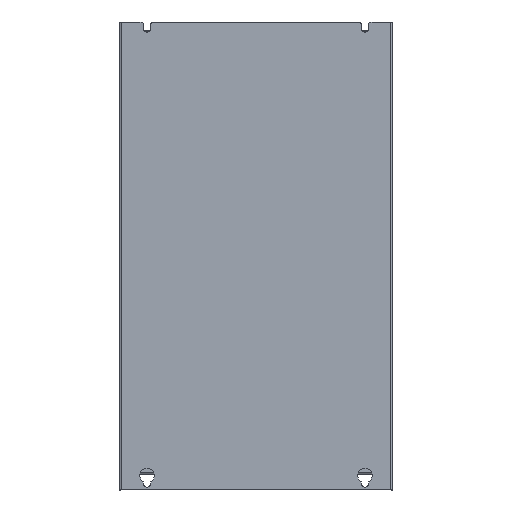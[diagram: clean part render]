
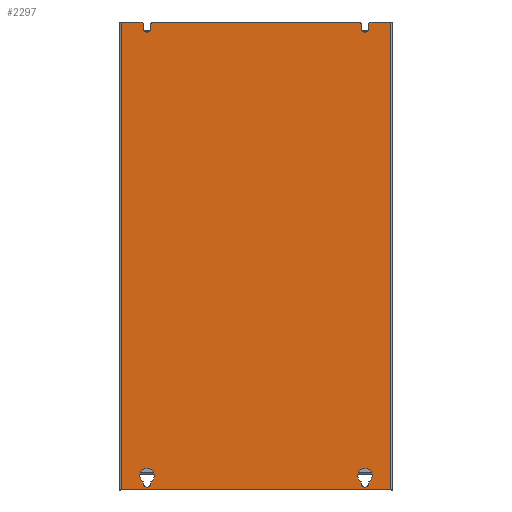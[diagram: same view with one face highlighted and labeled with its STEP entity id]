
A CAD part, top view. The second image highlights one B-rep face of the part: STEP entity #2297.
In plain terms, the highlighted planar face has unit normal (0, 0, 1).
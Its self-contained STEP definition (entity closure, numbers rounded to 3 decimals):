
#588=DIRECTION('',(0.,1.,0.));
#589=VECTOR('',#588,580.);
#590=CARTESIAN_POINT('',(-166.9,-290.,0.));
#591=LINE('',#590,#589);
#606=CARTESIAN_POINT('',(-135.,-282.,0.));
#607=DIRECTION('',(0.,0.,-1.));
#608=DIRECTION('',(1.,0.,0.));
#609=AXIS2_PLACEMENT_3D('',#606,#607,#608);
#611=DIRECTION('',(0.,1.,0.));
#612=VECTOR('',#611,2.206);
#613=CARTESIAN_POINT('',(-130.5,-282.,0.));
#614=LINE('',#613,#612);
#615=CARTESIAN_POINT('',(-135.,-272.,0.));
#616=DIRECTION('',(0.,0.,-1.));
#617=DIRECTION('',(-0.5,-0.866,0.));
#618=AXIS2_PLACEMENT_3D('',#615,#616,#617);
#620=DIRECTION('',(0.,-1.,0.));
#621=VECTOR('',#620,2.206);
#622=CARTESIAN_POINT('',(-139.5,-279.794,0.));
#623=LINE('',#622,#621);
#624=DIRECTION('',(0.,1.,0.));
#625=VECTOR('',#624,2.206);
#626=CARTESIAN_POINT('',(139.5,-282.,0.));
#627=LINE('',#626,#625);
#628=CARTESIAN_POINT('',(135.,-272.,0.));
#629=DIRECTION('',(0.,0.,-1.));
#630=DIRECTION('',(-0.5,-0.866,0.));
#631=AXIS2_PLACEMENT_3D('',#628,#629,#630);
#633=DIRECTION('',(0.,-1.,0.));
#634=VECTOR('',#633,2.206);
#635=CARTESIAN_POINT('',(130.5,-279.794,0.));
#636=LINE('',#635,#634);
#637=CARTESIAN_POINT('',(135.,-282.,0.));
#638=DIRECTION('',(0.,0.,-1.));
#639=DIRECTION('',(1.,0.,0.));
#640=AXIS2_PLACEMENT_3D('',#637,#638,#639);
#642=CARTESIAN_POINT('',(-142.5,287.,0.));
#643=DIRECTION('',(0.,0.,1.));
#644=DIRECTION('',(1.,0.,0.));
#645=AXIS2_PLACEMENT_3D('',#642,#643,#644);
#647=DIRECTION('',(0.,-1.,0.));
#648=VECTOR('',#647,5.);
#649=CARTESIAN_POINT('',(-139.5,287.,0.));
#650=LINE('',#649,#648);
#651=CARTESIAN_POINT('',(-135.,282.,0.));
#652=DIRECTION('',(0.,0.,-1.));
#653=DIRECTION('',(1.,0.,0.));
#654=AXIS2_PLACEMENT_3D('',#651,#652,#653);
#656=DIRECTION('',(0.,-1.,0.));
#657=VECTOR('',#656,5.);
#658=CARTESIAN_POINT('',(-130.5,287.,0.));
#659=LINE('',#658,#657);
#660=CARTESIAN_POINT('',(-127.5,287.,0.));
#661=DIRECTION('',(0.,0.,1.));
#662=DIRECTION('',(0.,1.,0.));
#663=AXIS2_PLACEMENT_3D('',#660,#661,#662);
#665=CARTESIAN_POINT('',(127.5,287.,0.));
#666=DIRECTION('',(0.,0.,1.));
#667=DIRECTION('',(1.,0.,0.));
#668=AXIS2_PLACEMENT_3D('',#665,#666,#667);
#670=DIRECTION('',(0.,-1.,0.));
#671=VECTOR('',#670,5.);
#672=CARTESIAN_POINT('',(130.5,287.,0.));
#673=LINE('',#672,#671);
#674=CARTESIAN_POINT('',(135.,282.,0.));
#675=DIRECTION('',(0.,0.,-1.));
#676=DIRECTION('',(1.,0.,0.));
#677=AXIS2_PLACEMENT_3D('',#674,#675,#676);
#679=DIRECTION('',(0.,-1.,0.));
#680=VECTOR('',#679,5.);
#681=CARTESIAN_POINT('',(139.5,287.,0.));
#682=LINE('',#681,#680);
#683=CARTESIAN_POINT('',(142.5,287.,0.));
#684=DIRECTION('',(0.,0.,1.));
#685=DIRECTION('',(0.,1.,0.));
#686=AXIS2_PLACEMENT_3D('',#683,#684,#685);
#806=DIRECTION('',(1.,0.,0.));
#807=VECTOR('',#806,24.4);
#808=CARTESIAN_POINT('',(-166.9,290.,0.));
#809=LINE('',#808,#807);
#868=DIRECTION('',(1.,0.,0.));
#869=VECTOR('',#868,255.);
#870=CARTESIAN_POINT('',(-127.5,290.,0.));
#871=LINE('',#870,#869);
#896=DIRECTION('',(1.,0.,0.));
#897=VECTOR('',#896,24.4);
#898=CARTESIAN_POINT('',(142.5,290.,0.));
#899=LINE('',#898,#897);
#913=DIRECTION('',(0.,1.,0.));
#914=VECTOR('',#913,580.);
#915=CARTESIAN_POINT('',(166.9,-290.,0.));
#916=LINE('',#915,#914);
#1012=DIRECTION('',(1.,0.,0.));
#1013=VECTOR('',#1012,333.8);
#1014=CARTESIAN_POINT('',(-166.9,-290.,0.));
#1015=LINE('',#1014,#1013);
#1134=CARTESIAN_POINT('',(-166.9,-290.,0.));
#1135=CARTESIAN_POINT('',(166.9,-290.,0.));
#1136=VERTEX_POINT('',#1134);
#1137=VERTEX_POINT('',#1135);
#1150=CARTESIAN_POINT('',(-166.9,290.,0.));
#1152=VERTEX_POINT('',#1150);
#1156=CARTESIAN_POINT('',(166.9,290.,0.));
#1157=VERTEX_POINT('',#1156);
#1166=CARTESIAN_POINT('',(-130.5,282.,0.));
#1167=CARTESIAN_POINT('',(-139.5,282.,0.));
#1168=VERTEX_POINT('',#1166);
#1169=VERTEX_POINT('',#1167);
#1170=CARTESIAN_POINT('',(-130.5,-282.,0.));
#1171=CARTESIAN_POINT('',(-139.5,-282.,0.));
#1172=VERTEX_POINT('',#1170);
#1173=VERTEX_POINT('',#1171);
#1174=CARTESIAN_POINT('',(-130.5,-279.794,0.));
#1175=VERTEX_POINT('',#1174);
#1176=CARTESIAN_POINT('',(-139.5,-279.794,0.));
#1177=VERTEX_POINT('',#1176);
#1178=CARTESIAN_POINT('',(139.5,-282.,0.));
#1179=CARTESIAN_POINT('',(139.5,-279.794,0.));
#1180=VERTEX_POINT('',#1178);
#1181=VERTEX_POINT('',#1179);
#1182=CARTESIAN_POINT('',(130.5,-279.794,0.));
#1183=VERTEX_POINT('',#1182);
#1184=CARTESIAN_POINT('',(130.5,-282.,0.));
#1185=VERTEX_POINT('',#1184);
#1186=CARTESIAN_POINT('',(139.5,282.,0.));
#1187=CARTESIAN_POINT('',(130.5,282.,0.));
#1188=VERTEX_POINT('',#1186);
#1189=VERTEX_POINT('',#1187);
#1214=CARTESIAN_POINT('',(-139.5,287.,0.));
#1215=CARTESIAN_POINT('',(-142.5,290.,0.));
#1216=VERTEX_POINT('',#1214);
#1217=VERTEX_POINT('',#1215);
#1222=CARTESIAN_POINT('',(-127.5,290.,0.));
#1223=CARTESIAN_POINT('',(-130.5,287.,0.));
#1224=VERTEX_POINT('',#1222);
#1225=VERTEX_POINT('',#1223);
#1230=CARTESIAN_POINT('',(142.5,290.,0.));
#1231=CARTESIAN_POINT('',(139.5,287.,0.));
#1232=VERTEX_POINT('',#1230);
#1233=VERTEX_POINT('',#1231);
#1238=CARTESIAN_POINT('',(130.5,287.,0.));
#1239=CARTESIAN_POINT('',(127.5,290.,0.));
#1240=VERTEX_POINT('',#1238);
#1241=VERTEX_POINT('',#1239);
#2239=CARTESIAN_POINT('',(-169.,-290.,0.));
#2240=DIRECTION('',(0.,0.,1.));
#2241=DIRECTION('',(1.,0.,0.));
#2242=AXIS2_PLACEMENT_3D('',#2239,#2240,#2241);
#2243=PLANE('',#2242);
#2245=ORIENTED_EDGE('',*,*,#2244,.F.);
#2247=ORIENTED_EDGE('',*,*,#2246,.T.);
#2249=ORIENTED_EDGE('',*,*,#2248,.F.);
#2251=ORIENTED_EDGE('',*,*,#2250,.F.);
#2253=ORIENTED_EDGE('',*,*,#2252,.F.);
#2255=ORIENTED_EDGE('',*,*,#2254,.T.);
#2257=ORIENTED_EDGE('',*,*,#2256,.F.);
#2259=ORIENTED_EDGE('',*,*,#2258,.T.);
#2261=ORIENTED_EDGE('',*,*,#2260,.F.);
#2263=ORIENTED_EDGE('',*,*,#2262,.F.);
#2265=ORIENTED_EDGE('',*,*,#2264,.F.);
#2267=ORIENTED_EDGE('',*,*,#2266,.T.);
#2269=ORIENTED_EDGE('',*,*,#2268,.F.);
#2271=ORIENTED_EDGE('',*,*,#2270,.F.);
#2272=ORIENTED_EDGE('',*,*,#2230,.T.);
#2274=ORIENTED_EDGE('',*,*,#2273,.T.);
#2275=EDGE_LOOP('',(#2245,#2247,#2249,#2251,#2253,#2255,#2257,#2259,#2261,#2263,
#2265,#2267,#2269,#2271,#2272,#2274));
#2276=FACE_OUTER_BOUND('',#2275,.F.);
#2278=ORIENTED_EDGE('',*,*,#2277,.T.);
#2280=ORIENTED_EDGE('',*,*,#2279,.F.);
#2282=ORIENTED_EDGE('',*,*,#2281,.T.);
#2284=ORIENTED_EDGE('',*,*,#2283,.F.);
#2285=EDGE_LOOP('',(#2278,#2280,#2282,#2284));
#2286=FACE_BOUND('',#2285,.F.);
#2288=ORIENTED_EDGE('',*,*,#2287,.F.);
#2290=ORIENTED_EDGE('',*,*,#2289,.T.);
#2292=ORIENTED_EDGE('',*,*,#2291,.F.);
#2294=ORIENTED_EDGE('',*,*,#2293,.T.);
#2295=EDGE_LOOP('',(#2288,#2290,#2292,#2294));
#2296=FACE_BOUND('',#2295,.F.);
#610=CIRCLE('',#609,4.5);
#619=CIRCLE('',#618,9.);
#632=CIRCLE('',#631,9.);
#641=CIRCLE('',#640,4.5);
#646=CIRCLE('',#645,3.);
#655=CIRCLE('',#654,4.5);
#664=CIRCLE('',#663,3.);
#669=CIRCLE('',#668,3.);
#678=CIRCLE('',#677,4.5);
#687=CIRCLE('',#686,3.);
#2230=EDGE_CURVE('',#1136,#1152,#591,.T.);
#2244=EDGE_CURVE('',#1216,#1217,#646,.T.);
#2246=EDGE_CURVE('',#1216,#1169,#650,.T.);
#2248=EDGE_CURVE('',#1168,#1169,#655,.T.);
#2250=EDGE_CURVE('',#1225,#1168,#659,.T.);
#2252=EDGE_CURVE('',#1224,#1225,#664,.T.);
#2254=EDGE_CURVE('',#1224,#1241,#871,.T.);
#2256=EDGE_CURVE('',#1240,#1241,#669,.T.);
#2258=EDGE_CURVE('',#1240,#1189,#673,.T.);
#2260=EDGE_CURVE('',#1188,#1189,#678,.T.);
#2262=EDGE_CURVE('',#1233,#1188,#682,.T.);
#2264=EDGE_CURVE('',#1232,#1233,#687,.T.);
#2266=EDGE_CURVE('',#1232,#1157,#899,.T.);
#2268=EDGE_CURVE('',#1137,#1157,#916,.T.);
#2270=EDGE_CURVE('',#1136,#1137,#1015,.T.);
#2273=EDGE_CURVE('',#1152,#1217,#809,.T.);
#2277=EDGE_CURVE('',#1180,#1181,#627,.T.);
#2279=EDGE_CURVE('',#1183,#1181,#632,.T.);
#2281=EDGE_CURVE('',#1183,#1185,#636,.T.);
#2283=EDGE_CURVE('',#1180,#1185,#641,.T.);
#2287=EDGE_CURVE('',#1172,#1173,#610,.T.);
#2289=EDGE_CURVE('',#1172,#1175,#614,.T.);
#2291=EDGE_CURVE('',#1177,#1175,#619,.T.);
#2293=EDGE_CURVE('',#1177,#1173,#623,.T.);
#2297=ADVANCED_FACE('',(#2276,#2286,#2296),#2243,.T.);
